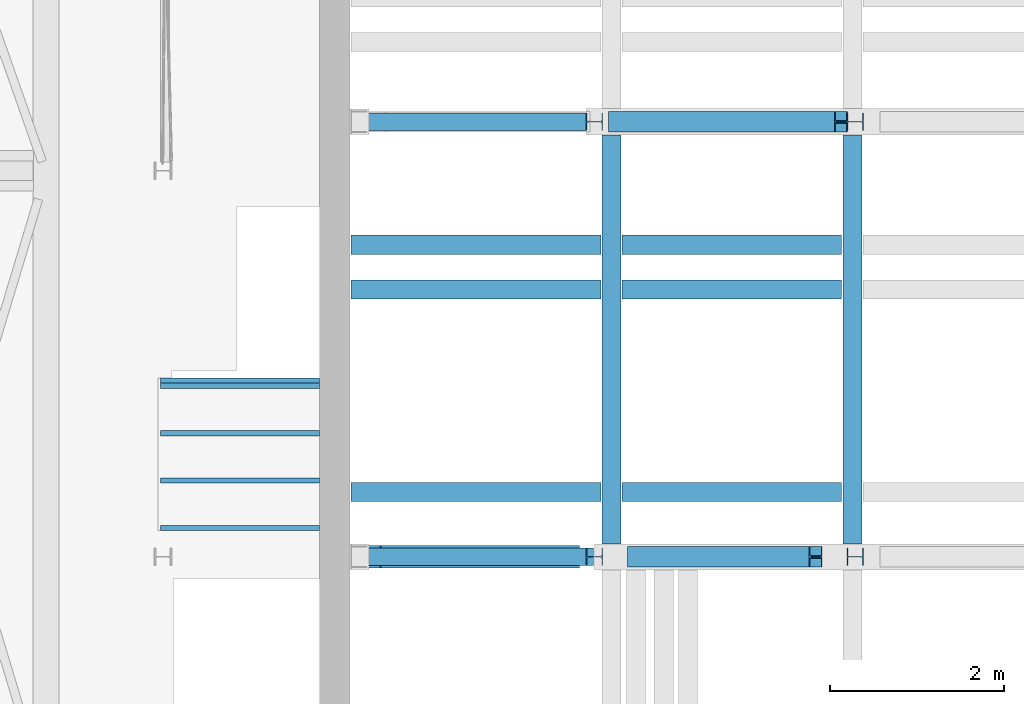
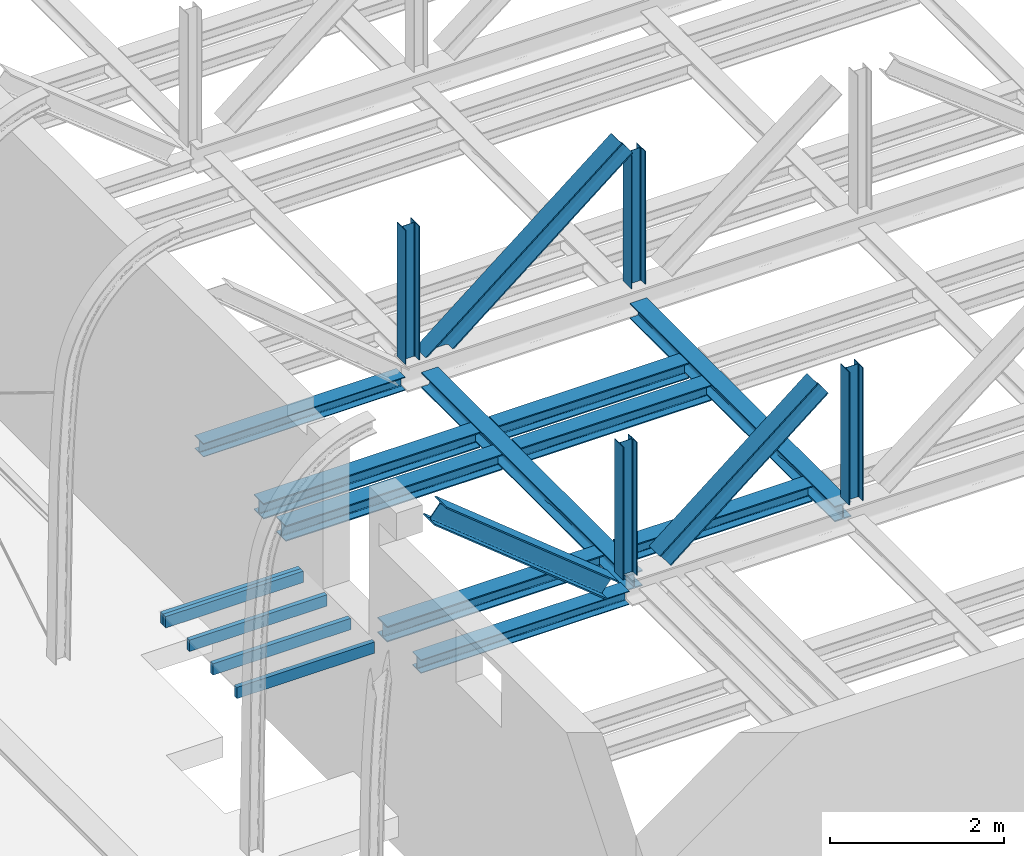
# One storey, part 9 of 29: 22 beams.
"""IFC2X3 building model written with IfcOpenShell, lengths in millimetres."""

from ifc_helpers import new_model, entity, si_unit, converted_unit, derived_unit, direction, frame, frame_2d, origin, place, context, subcontext, project, spatial, polyline, circle_curve, parameter, trimmed, segment, composite_curve, rectangle, i_section, outline, extrude, clip, halfspace, material, type_object, element, save


model = new_model("IFC2X3")

# Units and contexts
model_context = context("Model", 3, precision=0.01, world=origin(), true_north=direction((6.12303176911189e-17, 1.0)))
body_context = subcontext(model_context, "Body", "Model", "MODEL_VIEW")
ifc_project = project(units=[si_unit("LENGTHUNIT", "METRE", prefix="MILLI"), si_unit("AREAUNIT", "SQUARE_METRE", prefix="MILLI"), si_unit("VOLUMEUNIT", "CUBIC_METRE"), converted_unit("PLANEANGLEUNIT", "DEGREE", entity("IfcRatioMeasure", 0.0174532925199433), si_unit("PLANEANGLEUNIT", "RADIAN"), dimensions=[0, 0, 0, 0, 0, 0, 0]), si_unit("MASSUNIT", "GRAM", prefix="KILO"), derived_unit("MASSDENSITYUNIT", [(si_unit("MASSUNIT", "GRAM", prefix="KILO"), 1), (si_unit("LENGTHUNIT", "METRE"), -3)]), derived_unit("MOMENTOFINERTIAUNIT", [(si_unit("LENGTHUNIT", "METRE"), 4)]), si_unit("TIMEUNIT", "SECOND"), si_unit("FREQUENCYUNIT", "HERTZ"), si_unit("THERMODYNAMICTEMPERATUREUNIT", "DEGREE_CELSIUS"), derived_unit("THERMALTRANSMITTANCEUNIT", [(si_unit("MASSUNIT", "GRAM", prefix="KILO"), 1), (si_unit("THERMODYNAMICTEMPERATUREUNIT", "KELVIN"), -1), (si_unit("TIMEUNIT", "SECOND"), -3)]), derived_unit("VOLUMETRICFLOWRATEUNIT", [(si_unit("LENGTHUNIT", "METRE"), 3), (si_unit("TIMEUNIT", "SECOND"), -1)]), si_unit("ELECTRICCURRENTUNIT", "AMPERE"), si_unit("ELECTRICVOLTAGEUNIT", "VOLT"), si_unit("POWERUNIT", "WATT"), si_unit("FORCEUNIT", "NEWTON", prefix="KILO"), si_unit("ILLUMINANCEUNIT", "LUX"), si_unit("LUMINOUSFLUXUNIT", "LUMEN"), si_unit("LUMINOUSINTENSITYUNIT", "CANDELA"), derived_unit("USERDEFINED", [(si_unit("MASSUNIT", "GRAM", prefix="KILO"), -1), (si_unit("LENGTHUNIT", "METRE"), -2), (si_unit("TIMEUNIT", "SECOND"), 3), (si_unit("LUMINOUSFLUXUNIT", "LUMEN"), 1)]), derived_unit("LINEARVELOCITYUNIT", [(si_unit("LENGTHUNIT", "METRE"), 1), (si_unit("TIMEUNIT", "SECOND"), -1)]), si_unit("PRESSUREUNIT", "PASCAL"), derived_unit("USERDEFINED", [(si_unit("LENGTHUNIT", "METRE"), -2), (si_unit("MASSUNIT", "GRAM", prefix="KILO"), 1), (si_unit("TIMEUNIT", "SECOND"), -2)]), derived_unit("LINEARFORCEUNIT", [(si_unit("MASSUNIT", "GRAM", prefix="KILO"), 1), (si_unit("LENGTHUNIT", "METRE"), 1), (si_unit("TIMEUNIT", "SECOND"), -2), (si_unit("LENGTHUNIT", "METRE"), -1)]), derived_unit("PLANARFORCEUNIT", [(si_unit("MASSUNIT", "GRAM", prefix="KILO"), 1), (si_unit("LENGTHUNIT", "METRE"), 1), (si_unit("TIMEUNIT", "SECOND"), -2), (si_unit("LENGTHUNIT", "METRE"), -2)])], contexts=[model_context])

# Site, building, storey
site_placement = place(None, origin())
site = spatial("IfcSite", under=ifc_project, at=site_placement, Name="Theater aan de Parade", CompositionType="ELEMENT")
building_placement = place(site_placement, origin())
building = spatial("IfcBuilding", under=site, at=building_placement, Name="Theater aan de Parade", CompositionType="ELEMENT")
storey_placement = place(building_placement, frame((0.0, 0.0, 20300.0)))
storey = spatial("IfcBuildingStorey", under=building, at=storey_placement, Name="05 vijfde verdieping", CompositionType="ELEMENT", Elevation=20300.0)

# Beams
ifc_material_1 = material(Name="00_PBT_MAT_staal_S355")
beam_type_1 = type_object("IfcBeamType", Name="28_PBT_SF_staal_H-profiel:S355_HE220B", PredefinedType="NOTDEFINED")
beam_1_placement = place(storey_placement, frame((73483.3589914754, 29760.0, 0.0), z_axis=(0.0, 0.0, 1.0), x_axis=(0.0, -1.0, 0.0)))
element("IfcBeam", 1, at=beam_1_placement, inside=storey, type_object=beam_type_1, material=ifc_material_1, Name="28_PBT_SF_staal_H-profiel:S355_HE220B", ObjectType="28_PBT_SF_staal_H-profiel:S355_HE220B", context=body_context, shape_type="SweptSolid", body=[
    extrude(i_section(OverallWidth=220.000000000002, OverallDepth=220.000000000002, WebThickness=9.49999999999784, FlangeThickness=15.9999999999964, FilletRadius=17.9999999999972, at=frame_2d((-4.33431068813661e-12, 0.0), x_axis=(0.0, 1.0))), frame((0.0, 0.0, 2360.0), z_axis=(1.0, 0.0, 0.0), x_axis=(0.0, 0.0, -1.0)), (0.0, 0.0, 1.0), 4700.00000000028),
])
beam_2_placement = place(storey_placement, frame((70715.0, 29760.0, 0.0), z_axis=(0.0, 0.0, 1.0), x_axis=(0.0, -1.0, 0.0)))
element("IfcBeam", 2, at=beam_2_placement, inside=storey, type_object=beam_type_1, material=ifc_material_1, Name="28_PBT_SF_staal_H-profiel:S355_HE220B", ObjectType="28_PBT_SF_staal_H-profiel:S355_HE220B", context=body_context, shape_type="SweptSolid", body=[
    extrude(i_section(OverallWidth=220.000000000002, OverallDepth=220.000000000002, WebThickness=9.49999999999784, FlangeThickness=15.9999999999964, FilletRadius=17.9999999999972, at=frame_2d((-4.33431068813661e-12, -8.66862137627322e-12), x_axis=(0.0, 1.0))), frame((0.0, 0.0, 2360.0), z_axis=(1.0, 0.0, 0.0), x_axis=(0.0, 0.0, -1.0)), (0.0, 0.0, 1.0), 4700.00000000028),
])
beam_3_placement = place(storey_placement, frame((70715.0, 28497.5, 0.0), z_axis=(0.0, 0.0, 1.0), x_axis=(-1.0, 0.0, 0.0)))
element("IfcBeam", 3, at=beam_3_placement, inside=storey, type_object=beam_type_1, material=ifc_material_1, Name="28_PBT_SF_staal_H-profiel:S355_HE220B", ObjectType="28_PBT_SF_staal_H-profiel:S355_HE220B", context=body_context, shape_type="SweptSolid", body=[
    extrude(outline(composite_curve([segment(polyline([(94.0, -110.0), (110.0, -110.0)]), True, "CONTINUOUS"), segment(polyline([(110.0, -110.0), (110.0, 110.0)]), True, "CONTINUOUS"), segment(polyline([(110.0, 110.0), (94.0, 110.0)]), True, "CONTINUOUS"), segment(polyline([(94.0, 110.0), (94.0, 22.7500000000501)]), True, "CONTINUOUS"), segment(trimmed(circle_curve(frame_2d((76.0, 22.7500000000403), x_axis=(1.0, 0.0)), 18.0000000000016), [parameter(270.0)], [parameter(0.0)], True, "PARAMETER"), False, "CONTINUOUS"), segment(polyline([(76.0, 4.75000000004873), (-76.0, 4.74999999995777)]), True, "CONTINUOUS"), segment(trimmed(circle_curve(frame_2d((-76.0, 22.749999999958), x_axis=(0.0, -1.0)), 18.0000000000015), [parameter(270.0)], [parameter(0.0)], True, "PARAMETER"), False, "CONTINUOUS"), segment(polyline([(-94.0, 22.7499999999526), (-94.0, 110.0)]), True, "CONTINUOUS"), segment(polyline([(-94.0, 110.0), (-110.0, 110.0)]), True, "CONTINUOUS"), segment(polyline([(-110.0, 110.0), (-110.0, -110.0)]), True, "CONTINUOUS"), segment(polyline([(-110.0, -110.0), (-94.0, -110.0)]), True, "CONTINUOUS"), segment(polyline([(-94.0, -110.0), (-94.0, -22.7500000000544)]), True, "CONTINUOUS"), segment(trimmed(circle_curve(frame_2d((-76.0, -22.7500000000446), x_axis=(-1.0, 0.0)), 17.9999999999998), [parameter(270.0)], [parameter(0.0)], True, "PARAMETER"), False, "CONTINUOUS"), segment(polyline([(-76.0, -4.75000000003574), (76.0, -4.7499999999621)]), True, "CONTINUOUS"), segment(trimmed(circle_curve(frame_2d((76.0, -22.7499999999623), x_axis=(0.0, 1.0)), 18.0000000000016), [parameter(270.0)], [parameter(0.0)], True, "PARAMETER"), False, "CONTINUOUS"), segment(polyline([(94.0, -22.7499999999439), (94.0, -110.0)]), True, "CONTINUOUS")], self_intersect=False)), frame((122.699999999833, 0.0, 2360.0), z_axis=(1.0, 0.0, 0.0), x_axis=(0.0, 0.0, -1.0)), (0.0, 0.0, 1.0), 2873.34389903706),
])
beam_4_placement = place(storey_placement, frame((73483.3589914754, 28497.5, 0.0), z_axis=(0.0, 0.0, 1.0), x_axis=(-1.0, 0.0, 0.0)))
element("IfcBeam", 4, at=beam_4_placement, inside=storey, type_object=beam_type_1, material=ifc_material_1, Name="28_PBT_SF_staal_H-profiel:S355_HE220B", ObjectType="28_PBT_SF_staal_H-profiel:S355_HE220B", context=body_context, shape_type="SweptSolid", body=[
    extrude(outline(composite_curve([segment(polyline([(94.0, -110.0), (110.0, -110.0)]), True, "CONTINUOUS"), segment(polyline([(110.0, -110.0), (110.0, 110.0)]), True, "CONTINUOUS"), segment(polyline([(110.0, 110.0), (94.0, 110.0)]), True, "CONTINUOUS"), segment(polyline([(94.0, 110.0), (94.0, 22.7500000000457)]), True, "CONTINUOUS"), segment(trimmed(circle_curve(frame_2d((76.0, 22.750000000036), x_axis=(1.0, 0.0)), 18.0000000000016), [parameter(270.0)], [parameter(0.0)], True, "PARAMETER"), False, "CONTINUOUS"), segment(polyline([(76.0, 4.7500000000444), (-76.0, 4.74999999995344)]), True, "CONTINUOUS"), segment(trimmed(circle_curve(frame_2d((-76.0, 22.7499999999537), x_axis=(0.0, -1.0)), 18.0000000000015), [parameter(270.0)], [parameter(0.0)], True, "PARAMETER"), False, "CONTINUOUS"), segment(polyline([(-94.0, 22.7499999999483), (-94.0, 110.0)]), True, "CONTINUOUS"), segment(polyline([(-94.0, 110.0), (-110.0, 110.0)]), True, "CONTINUOUS"), segment(polyline([(-110.0, 110.0), (-110.0, -110.0)]), True, "CONTINUOUS"), segment(polyline([(-110.0, -110.0), (-94.0, -110.0)]), True, "CONTINUOUS"), segment(polyline([(-94.0, -110.0), (-94.0, -22.7500000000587)]), True, "CONTINUOUS"), segment(trimmed(circle_curve(frame_2d((-76.0, -22.750000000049), x_axis=(-1.0, 0.0)), 17.9999999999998), [parameter(270.0)], [parameter(0.0)], True, "PARAMETER"), False, "CONTINUOUS"), segment(polyline([(-76.0, -4.75000000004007), (76.0, -4.74999999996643)]), True, "CONTINUOUS"), segment(trimmed(circle_curve(frame_2d((76.0, -22.7499999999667), x_axis=(0.0, 1.0)), 18.0000000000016), [parameter(270.0)], [parameter(0.0)], True, "PARAMETER"), False, "CONTINUOUS"), segment(polyline([(94.0, -22.7499999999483), (94.0, -110.0)]), True, "CONTINUOUS")], self_intersect=False)), frame((122.700000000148, 0.0, 2360.0), z_axis=(1.0, 0.0, 0.0), x_axis=(0.0, 0.0, -1.0)), (0.0, 0.0, 1.0), 2522.95899147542),
])
beam_5_placement = place(storey_placement, frame((70715.0, 27983.4998, 0.0), z_axis=(0.0, 0.0, 1.0), x_axis=(-1.0, 0.0, 0.0)))
element("IfcBeam", 5, at=beam_5_placement, inside=storey, type_object=beam_type_1, material=ifc_material_1, Name="28_PBT_SF_staal_H-profiel:S355_HE220B", ObjectType="28_PBT_SF_staal_H-profiel:S355_HE220B", context=body_context, shape_type="SweptSolid", body=[
    extrude(outline(composite_curve([segment(polyline([(94.0, -110.0), (110.0, -110.0)]), True, "CONTINUOUS"), segment(polyline([(110.0, -110.0), (110.0, 110.0)]), True, "CONTINUOUS"), segment(polyline([(110.0, 110.0), (94.0, 110.0)]), True, "CONTINUOUS"), segment(polyline([(94.0, 110.0), (94.0, 22.7500000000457)]), True, "CONTINUOUS"), segment(trimmed(circle_curve(frame_2d((76.0, 22.750000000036), x_axis=(1.0, 0.0)), 18.0000000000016), [parameter(270.0)], [parameter(0.0)], True, "PARAMETER"), False, "CONTINUOUS"), segment(polyline([(76.0, 4.7500000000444), (-76.0, 4.74999999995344)]), True, "CONTINUOUS"), segment(trimmed(circle_curve(frame_2d((-76.0, 22.7499999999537), x_axis=(0.0, -1.0)), 18.0000000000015), [parameter(270.0)], [parameter(0.0)], True, "PARAMETER"), False, "CONTINUOUS"), segment(polyline([(-94.0, 22.7499999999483), (-94.0, 110.0)]), True, "CONTINUOUS"), segment(polyline([(-94.0, 110.0), (-110.0, 110.0)]), True, "CONTINUOUS"), segment(polyline([(-110.0, 110.0), (-110.0, -110.0)]), True, "CONTINUOUS"), segment(polyline([(-110.0, -110.0), (-94.0, -110.0)]), True, "CONTINUOUS"), segment(polyline([(-94.0, -110.0), (-94.0, -22.7500000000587)]), True, "CONTINUOUS"), segment(trimmed(circle_curve(frame_2d((-76.0, -22.750000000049), x_axis=(-1.0, 0.0)), 17.9999999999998), [parameter(270.0)], [parameter(0.0)], True, "PARAMETER"), False, "CONTINUOUS"), segment(polyline([(-76.0, -4.75000000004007), (76.0, -4.74999999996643)]), True, "CONTINUOUS"), segment(trimmed(circle_curve(frame_2d((76.0, -22.7499999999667), x_axis=(0.0, 1.0)), 18.0000000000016), [parameter(270.0)], [parameter(0.0)], True, "PARAMETER"), False, "CONTINUOUS"), segment(polyline([(94.0, -22.7499999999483), (94.0, -110.0)]), True, "CONTINUOUS")], self_intersect=False)), frame((122.69999999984, 0.0, 2360.0), z_axis=(1.0, 0.0, 0.0), x_axis=(0.0, 0.0, -1.0)), (0.0, 0.0, 1.0), 2873.34389903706),
])
beam_6_placement = place(storey_placement, frame((73483.3589914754, 27983.4998, 0.0), z_axis=(0.0, 0.0, 1.0), x_axis=(-1.0, 0.0, 0.0)))
element("IfcBeam", 6, at=beam_6_placement, inside=storey, type_object=beam_type_1, material=ifc_material_1, Name="28_PBT_SF_staal_H-profiel:S355_HE220B", ObjectType="28_PBT_SF_staal_H-profiel:S355_HE220B", context=body_context, shape_type="SweptSolid", body=[
    extrude(outline(composite_curve([segment(polyline([(94.0, -110.0), (110.0, -110.0)]), True, "CONTINUOUS"), segment(polyline([(110.0, -110.0), (110.0, 110.0)]), True, "CONTINUOUS"), segment(polyline([(110.0, 110.0), (94.0, 110.0)]), True, "CONTINUOUS"), segment(polyline([(94.0, 110.0), (94.0, 22.7500000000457)]), True, "CONTINUOUS"), segment(trimmed(circle_curve(frame_2d((76.0, 22.750000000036), x_axis=(1.0, 0.0)), 18.0000000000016), [parameter(270.0)], [parameter(0.0)], True, "PARAMETER"), False, "CONTINUOUS"), segment(polyline([(76.0, 4.7500000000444), (-76.0, 4.74999999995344)]), True, "CONTINUOUS"), segment(trimmed(circle_curve(frame_2d((-76.0, 22.7499999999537), x_axis=(0.0, -1.0)), 18.0000000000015), [parameter(270.0)], [parameter(0.0)], True, "PARAMETER"), False, "CONTINUOUS"), segment(polyline([(-94.0, 22.7499999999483), (-94.0, 110.0)]), True, "CONTINUOUS"), segment(polyline([(-94.0, 110.0), (-110.0, 110.0)]), True, "CONTINUOUS"), segment(polyline([(-110.0, 110.0), (-110.0, -110.0)]), True, "CONTINUOUS"), segment(polyline([(-110.0, -110.0), (-94.0, -110.0)]), True, "CONTINUOUS"), segment(polyline([(-94.0, -110.0), (-94.0, -22.7500000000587)]), True, "CONTINUOUS"), segment(trimmed(circle_curve(frame_2d((-76.0, -22.750000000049), x_axis=(-1.0, 0.0)), 17.9999999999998), [parameter(270.0)], [parameter(0.0)], True, "PARAMETER"), False, "CONTINUOUS"), segment(polyline([(-76.0, -4.75000000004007), (76.0, -4.74999999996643)]), True, "CONTINUOUS"), segment(trimmed(circle_curve(frame_2d((76.0, -22.7499999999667), x_axis=(0.0, 1.0)), 18.0000000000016), [parameter(270.0)], [parameter(0.0)], True, "PARAMETER"), False, "CONTINUOUS"), segment(polyline([(94.0, -22.7499999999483), (94.0, -110.0)]), True, "CONTINUOUS")], self_intersect=False)), frame((122.700000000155, 0.0, 2360.0), z_axis=(1.0, 0.0, 0.0), x_axis=(0.0, 0.0, -1.0)), (0.0, 0.0, 1.0), 2522.95899147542),
])
beam_7_placement = place(storey_placement, frame((70715.0, 25654.5, 0.0), z_axis=(0.0, 0.0, 1.0), x_axis=(-1.0, 0.0, 0.0)))
element("IfcBeam", 7, at=beam_7_placement, inside=storey, type_object=beam_type_1, material=ifc_material_1, Name="28_PBT_SF_staal_H-profiel:S355_HE220B", ObjectType="28_PBT_SF_staal_H-profiel:S355_HE220B", context=body_context, shape_type="SweptSolid", body=[
    extrude(outline(composite_curve([segment(polyline([(94.0, -110.0), (110.0, -110.0)]), True, "CONTINUOUS"), segment(polyline([(110.0, -110.0), (110.0, 110.0)]), True, "CONTINUOUS"), segment(polyline([(110.0, 110.0), (94.0, 110.0)]), True, "CONTINUOUS"), segment(polyline([(94.0, 110.0), (94.0, 22.7500000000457)]), True, "CONTINUOUS"), segment(trimmed(circle_curve(frame_2d((76.0, 22.750000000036), x_axis=(1.0, 0.0)), 18.0000000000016), [parameter(270.0)], [parameter(0.0)], True, "PARAMETER"), False, "CONTINUOUS"), segment(polyline([(76.0, 4.7500000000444), (-76.0, 4.74999999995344)]), True, "CONTINUOUS"), segment(trimmed(circle_curve(frame_2d((-76.0, 22.7499999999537), x_axis=(0.0, -1.0)), 18.0000000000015), [parameter(270.0)], [parameter(0.0)], True, "PARAMETER"), False, "CONTINUOUS"), segment(polyline([(-94.0, 22.7499999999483), (-94.0, 110.0)]), True, "CONTINUOUS"), segment(polyline([(-94.0, 110.0), (-110.0, 110.0)]), True, "CONTINUOUS"), segment(polyline([(-110.0, 110.0), (-110.0, -110.0)]), True, "CONTINUOUS"), segment(polyline([(-110.0, -110.0), (-94.0, -110.0)]), True, "CONTINUOUS"), segment(polyline([(-94.0, -110.0), (-94.0, -22.7500000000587)]), True, "CONTINUOUS"), segment(trimmed(circle_curve(frame_2d((-76.0, -22.750000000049), x_axis=(-1.0, 0.0)), 17.9999999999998), [parameter(270.0)], [parameter(0.0)], True, "PARAMETER"), False, "CONTINUOUS"), segment(polyline([(-76.0, -4.75000000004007), (76.0, -4.74999999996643)]), True, "CONTINUOUS"), segment(trimmed(circle_curve(frame_2d((76.0, -22.7499999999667), x_axis=(0.0, 1.0)), 18.0000000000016), [parameter(270.0)], [parameter(0.0)], True, "PARAMETER"), False, "CONTINUOUS"), segment(polyline([(94.0, -22.7499999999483), (94.0, -110.0)]), True, "CONTINUOUS")], self_intersect=False)), frame((122.699999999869, 0.0, 2360.0), z_axis=(1.0, 0.0, 0.0), x_axis=(0.0, 0.0, -1.0)), (0.0, 0.0, 1.0), 2873.34389903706),
])
beam_8_placement = place(storey_placement, frame((73483.3589914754, 25654.5, 0.0), z_axis=(0.0, 0.0, 1.0), x_axis=(-1.0, 0.0, 0.0)))
element("IfcBeam", 8, at=beam_8_placement, inside=storey, type_object=beam_type_1, material=ifc_material_1, Name="28_PBT_SF_staal_H-profiel:S355_HE220B", ObjectType="28_PBT_SF_staal_H-profiel:S355_HE220B", context=body_context, shape_type="SweptSolid", body=[
    extrude(outline(composite_curve([segment(polyline([(94.0, -110.0), (110.0, -110.0)]), True, "CONTINUOUS"), segment(polyline([(110.0, -110.0), (110.0, 110.0)]), True, "CONTINUOUS"), segment(polyline([(110.0, 110.0), (94.0, 110.0)]), True, "CONTINUOUS"), segment(polyline([(94.0, 110.0), (94.0, 22.7500000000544)]), True, "CONTINUOUS"), segment(trimmed(circle_curve(frame_2d((76.0, 22.7500000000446), x_axis=(1.0, 0.0)), 18.0000000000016), [parameter(270.0)], [parameter(0.0)], True, "PARAMETER"), False, "CONTINUOUS"), segment(polyline([(76.0, 4.75000000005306), (-76.0, 4.7499999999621)]), True, "CONTINUOUS"), segment(trimmed(circle_curve(frame_2d((-76.0, 22.7499999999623), x_axis=(0.0, -1.0)), 18.0000000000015), [parameter(270.0)], [parameter(0.0)], True, "PARAMETER"), False, "CONTINUOUS"), segment(polyline([(-94.0, 22.7499999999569), (-94.0, 110.0)]), True, "CONTINUOUS"), segment(polyline([(-94.0, 110.0), (-110.0, 110.0)]), True, "CONTINUOUS"), segment(polyline([(-110.0, 110.0), (-110.0, -110.0)]), True, "CONTINUOUS"), segment(polyline([(-110.0, -110.0), (-94.0, -110.0)]), True, "CONTINUOUS"), segment(polyline([(-94.0, -110.0), (-94.0, -22.7500000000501)]), True, "CONTINUOUS"), segment(trimmed(circle_curve(frame_2d((-76.0, -22.7500000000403), x_axis=(-1.0, 0.0)), 17.9999999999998), [parameter(270.0)], [parameter(0.0)], True, "PARAMETER"), False, "CONTINUOUS"), segment(polyline([(-76.0, -4.75000000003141), (76.0, -4.74999999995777)]), True, "CONTINUOUS"), segment(trimmed(circle_curve(frame_2d((76.0, -22.749999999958), x_axis=(0.0, 1.0)), 18.0000000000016), [parameter(270.0)], [parameter(0.0)], True, "PARAMETER"), False, "CONTINUOUS"), segment(polyline([(94.0, -22.7499999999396), (94.0, -110.0)]), True, "CONTINUOUS")], self_intersect=False)), frame((122.70000000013, 0.0, 2360.0), z_axis=(1.0, 0.0, 0.0), x_axis=(0.0, 0.0, -1.0)), (0.0, 0.0, 1.0), 2522.95899147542),
])
beam_type_2 = type_object("IfcBeamType", Name="28_PBT_SF_staal_H-profiel:S355_HE200A", PredefinedType="NOTDEFINED")
beam_9_placement = place(storey_placement, frame((67742.4274620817, 29910.0, 2345.0)))
element("IfcBeam", 9, at=beam_9_placement, inside=storey, type_object=beam_type_2, material=ifc_material_1, Name="28_PBT_SF_staal_H-profiel:S355_HE200A", ObjectType="28_PBT_SF_staal_H-profiel:S355_HE200A", context=body_context, shape_type="SweptSolid", body=[
    extrude(i_section(OverallWidth=200.000000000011, OverallDepth=190.0, WebThickness=6.49999999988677, FlangeThickness=9.99999999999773, FilletRadius=18.0000000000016, at=frame_2d((-4.33431068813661e-12, -2.16715534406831e-12), x_axis=(0.0, 1.0))), frame((0.0, 0.0, 0.0), z_axis=(1.0, 0.0, 0.0), x_axis=(0.0, 0.0, -1.0)), (0.0, 0.0, 1.0), 2678.70159045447),
])
beam_10_placement = place(storey_placement, frame((70517.4274620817, 29910.0, 2345.0), z_axis=(1.0, 0.0, 0.0), x_axis=(0.0, 0.0, 1.0)))
element("IfcBeam", 10, at=beam_10_placement, inside=storey, type_object=beam_type_2, material=ifc_material_1, Name="28_PBT_SF_staal_H-profiel:S355_HE200A", ObjectType="28_PBT_SF_staal_H-profiel:S355_HE200A", context=body_context, shape_type="SweptSolid", body=[
    extrude(i_section(OverallWidth=199.999999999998, OverallDepth=190.0, WebThickness=6.50000000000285, FlangeThickness=9.99999999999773, FilletRadius=17.9999999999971, at=frame_2d((-4.33431068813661e-12, 2.16715534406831e-12), x_axis=(0.0, 1.0))), frame((265.0, 0.0, 0.0), z_axis=(1.0, 0.0, 0.0), x_axis=(0.0, 0.0, -1.0)), (0.0, 0.0, 1.0), 1877.3),
])
beam_11_placement = place(storey_placement, frame((73514.8549241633, 29910.0, 2430.0), z_axis=(1.0, 0.0, 0.0), x_axis=(0.0, 0.0, 1.0)))
element("IfcBeam", 11, at=beam_11_placement, inside=storey, type_object=beam_type_2, material=ifc_material_1, Name="28_PBT_SF_staal_H-profiel:S355_HE200A", ObjectType="28_PBT_SF_staal_H-profiel:S355_HE200A", context=body_context, shape_type="SweptSolid", body=[
    extrude(i_section(OverallWidth=199.999999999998, OverallDepth=190.0, WebThickness=6.50000000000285, FlangeThickness=9.99999999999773, FilletRadius=17.9999999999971, at=frame_2d((1.29958266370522e-11, 2.16715534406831e-12), x_axis=(0.0, 1.0))), frame((192.7, 0.0, 0.0), z_axis=(1.0, 0.0, 0.0), x_axis=(0.0, 0.0, -1.0)), (0.0, 0.0, 1.0), 1864.6),
])
beam_12_placement = place(storey_placement, frame((73514.8549241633, 24910.0, 2429.0), z_axis=(1.0, 0.0, 0.0), x_axis=(0.0, 0.0, 1.0)))
element("IfcBeam", 12, at=beam_12_placement, inside=storey, type_object=beam_type_2, material=ifc_material_1, Name="28_PBT_SF_staal_H-profiel:S355_HE200A", ObjectType="28_PBT_SF_staal_H-profiel:S355_HE200A", context=body_context, shape_type="SweptSolid", body=[
    extrude(outline(composite_curve([segment(polyline([(85.0, -100.0), (95.0, -100.0)]), True, "CONTINUOUS"), segment(polyline([(95.0, -100.0), (95.0, 100.0)]), True, "CONTINUOUS"), segment(polyline([(95.0, 100.0), (85.0, 100.0)]), True, "CONTINUOUS"), segment(polyline([(85.0, 100.0), (85.0, 21.2500000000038)]), True, "CONTINUOUS"), segment(trimmed(circle_curve(frame_2d((67.0, 21.2499999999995), x_axis=(1.0, 0.0)), 17.9999999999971), [parameter(269.999999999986)], [parameter(0.0)], True, "PARAMETER"), False, "CONTINUOUS"), segment(polyline([(67.0, 3.25000000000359), (-67.0, 3.25000000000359)]), True, "CONTINUOUS"), segment(trimmed(circle_curve(frame_2d((-67.0, 21.2499999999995), x_axis=(0.0, -1.0)), 17.9999999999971), [parameter(269.999999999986)], [parameter(0.0)], True, "PARAMETER"), False, "CONTINUOUS"), segment(polyline([(-85.0, 21.2500000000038), (-85.0, 100.0)]), True, "CONTINUOUS"), segment(polyline([(-85.0, 100.0), (-95.0, 100.0)]), True, "CONTINUOUS"), segment(polyline([(-95.0, 100.0), (-95.0, -100.0)]), True, "CONTINUOUS"), segment(polyline([(-95.0, -100.0), (-85.0, -100.0)]), True, "CONTINUOUS"), segment(polyline([(-85.0, -100.0), (-85.0, -21.2499999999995)]), True, "CONTINUOUS"), segment(trimmed(circle_curve(frame_2d((-67.0, -21.2499999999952), x_axis=(-1.0, 0.0)), 17.9999999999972), [parameter(269.999999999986)], [parameter(0.0)], True, "PARAMETER"), False, "CONTINUOUS"), segment(polyline([(-67.0, -3.24999999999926), (67.0, -3.24999999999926)]), True, "CONTINUOUS"), segment(trimmed(circle_curve(frame_2d((67.0, -21.2499999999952), x_axis=(0.0, 1.0)), 17.9999999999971), [parameter(269.999999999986)], [parameter(0.0)], True, "PARAMETER"), False, "CONTINUOUS"), segment(polyline([(85.0, -21.2499999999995), (85.0, -100.0)]), True, "CONTINUOUS")], self_intersect=False)), frame((192.700000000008, 0.0, 0.0), z_axis=(1.0, 0.0, 0.0), x_axis=(0.0, 0.0, -1.0)), (0.0, 0.0, 1.0), 1864.59999999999),
])
beam_13_placement = place(storey_placement, frame((67742.4274620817, 24910.0, 2344.0)))
element("IfcBeam", 13, at=beam_13_placement, inside=storey, type_object=beam_type_2, material=ifc_material_1, Name="28_PBT_SF_staal_H-profiel:S355_HE200A", ObjectType="28_PBT_SF_staal_H-profiel:S355_HE200A", context=body_context, shape_type="SweptSolid", body=[
    extrude(outline(composite_curve([segment(polyline([(85.0, -100.0), (95.0, -100.0)]), True, "CONTINUOUS"), segment(polyline([(95.0, -100.0), (95.0, 100.0)]), True, "CONTINUOUS"), segment(polyline([(95.0, 100.0), (85.0, 100.0)]), True, "CONTINUOUS"), segment(polyline([(85.0, 100.0), (85.0, 21.2499999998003)]), True, "CONTINUOUS"), segment(trimmed(circle_curve(frame_2d((67.0, 21.249999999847), x_axis=(1.0, 0.0)), 18.0000000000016), [parameter(270.0)], [parameter(0.0)], True, "PARAMETER"), False, "CONTINUOUS"), segment(polyline([(67.0, 3.2499999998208), (-67.0, 3.25000000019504)]), True, "CONTINUOUS"), segment(trimmed(circle_curve(frame_2d((-67.0, 21.2500000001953), x_axis=(0.0, -1.0)), 18.0000000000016), [parameter(270.0)], [parameter(0.0)], True, "PARAMETER"), False, "CONTINUOUS"), segment(polyline([(-85.0, 21.2500000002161), (-85.0, 100.0)]), True, "CONTINUOUS"), segment(polyline([(-85.0, 100.0), (-95.0, 100.0)]), True, "CONTINUOUS"), segment(polyline([(-95.0, 100.0), (-95.0, -100.0)]), True, "CONTINUOUS"), segment(polyline([(-95.0, -100.0), (-85.0, -100.0)]), True, "CONTINUOUS"), segment(polyline([(-85.0, -100.0), (-85.0, -21.2499999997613)]), True, "CONTINUOUS"), segment(trimmed(circle_curve(frame_2d((-67.0, -21.249999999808), x_axis=(-1.0, 0.0)), 17.9999999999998), [parameter(270.0)], [parameter(0.0)], True, "PARAMETER"), False, "CONTINUOUS"), segment(polyline([(-67.0, -3.2499999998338), (67.0, -3.25000000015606)]), True, "CONTINUOUS"), segment(trimmed(circle_curve(frame_2d((67.0, -21.2500000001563), x_axis=(0.0, 1.0)), 18.0000000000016), [parameter(270.0)], [parameter(0.0)], True, "PARAMETER"), False, "CONTINUOUS"), segment(polyline([(85.0, -21.2500000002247), (85.0, -100.0)]), True, "CONTINUOUS")], self_intersect=False)), frame((0.0, 0.0, 0.0), z_axis=(1.0, 0.0, 0.0), x_axis=(0.0, 0.0, -1.0)), (0.0, 0.0, 1.0), 2762.2999993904),
])
beam_14_placement = place(storey_placement, frame((70517.4274620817, 24910.0, 2344.0), z_axis=(1.0, 0.0, 0.0), x_axis=(0.0, 0.0, 1.0)))
element("IfcBeam", 14, at=beam_14_placement, inside=storey, type_object=beam_type_2, material=ifc_material_1, Name="28_PBT_SF_staal_H-profiel:S355_HE200A", ObjectType="28_PBT_SF_staal_H-profiel:S355_HE200A", context=body_context, shape_type="SweptSolid", body=[
    extrude(outline(composite_curve([segment(polyline([(85.0, -100.0), (95.0, -100.0)]), True, "CONTINUOUS"), segment(polyline([(95.0, -100.0), (95.0, 100.0)]), True, "CONTINUOUS"), segment(polyline([(95.0, 100.0), (85.0, 100.0)]), True, "CONTINUOUS"), segment(polyline([(85.0, 100.0), (85.0, 21.2500000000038)]), True, "CONTINUOUS"), segment(trimmed(circle_curve(frame_2d((67.0, 21.2499999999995), x_axis=(1.0, 0.0)), 17.9999999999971), [parameter(269.999999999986)], [parameter(0.0)], True, "PARAMETER"), False, "CONTINUOUS"), segment(polyline([(67.0, 3.25000000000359), (-67.0, 3.25000000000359)]), True, "CONTINUOUS"), segment(trimmed(circle_curve(frame_2d((-67.0, 21.2499999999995), x_axis=(0.0, -1.0)), 17.9999999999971), [parameter(269.999999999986)], [parameter(0.0)], True, "PARAMETER"), False, "CONTINUOUS"), segment(polyline([(-85.0, 21.2500000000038), (-85.0, 100.0)]), True, "CONTINUOUS"), segment(polyline([(-85.0, 100.0), (-95.0, 100.0)]), True, "CONTINUOUS"), segment(polyline([(-95.0, 100.0), (-95.0, -100.0)]), True, "CONTINUOUS"), segment(polyline([(-95.0, -100.0), (-85.0, -100.0)]), True, "CONTINUOUS"), segment(polyline([(-85.0, -100.0), (-85.0, -21.2499999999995)]), True, "CONTINUOUS"), segment(trimmed(circle_curve(frame_2d((-67.0, -21.2499999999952), x_axis=(-1.0, 0.0)), 17.9999999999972), [parameter(269.999999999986)], [parameter(0.0)], True, "PARAMETER"), False, "CONTINUOUS"), segment(polyline([(-67.0, -3.24999999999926), (67.0, -3.24999999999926)]), True, "CONTINUOUS"), segment(trimmed(circle_curve(frame_2d((67.0, -21.2499999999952), x_axis=(0.0, 1.0)), 17.9999999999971), [parameter(269.999999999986)], [parameter(0.0)], True, "PARAMETER"), False, "CONTINUOUS"), segment(polyline([(85.0, -21.2499999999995), (85.0, -100.0)]), True, "CONTINUOUS")], self_intersect=False)), frame((277.699999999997, 0.0, 0.0), z_axis=(1.0, 0.0, 0.0), x_axis=(0.0, 0.0, -1.0)), (0.0, 0.0, 1.0), 1864.6),
])
beam_type_3 = type_object("IfcBeamType", Name="28_PBT_SF_staal_H-profiel:S355_HE260B", PredefinedType="NOTDEFINED")
beam_15_placement = place(storey_placement, frame((67520.0, 24910.0, 4764.0), z_axis=(0.628180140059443, 0.0, 0.778067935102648), x_axis=(0.778067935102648, 0.0, -0.628180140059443)))
element("IfcBeam", 15, at=beam_15_placement, inside=storey, type_object=beam_type_3, material=ifc_material_1, Name="28_PBT_SF_staal_H-profiel:S355_HE260B", ObjectType="28_PBT_SF_staal_H-profiel:S355_HE260B", context=body_context, shape_type="SweptSolid", body=[
    extrude(i_section(OverallWidth=260.000000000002, OverallDepth=260.000000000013, WebThickness=10.0000000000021, FlangeThickness=17.5000000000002, FilletRadius=23.9999999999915, at=frame_2d((7.7733375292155e-12, -6.49436060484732e-12), x_axis=(0.0, 1.0))), frame((595.572345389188, 0.0, 0.0), z_axis=(1.0, 0.0, 0.0), x_axis=(0.0, 0.0, -1.0)), (0.0, 0.0, 1.0), 2931.87645368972),
])
beam_type_4 = type_object("IfcBeamType", Name="28_PBT_SF_staal_H-profiel:S355_HE240B", PredefinedType="NOTDEFINED")
beam_16_placement = place(storey_placement, frame((70517.4274620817, 29910.0, 2345.0), z_axis=(-0.627787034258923, 0.0, 0.778385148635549), x_axis=(0.778385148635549, 0.0, 0.627787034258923)))
element("IfcBeam", 16, at=beam_16_placement, inside=storey, type_object=beam_type_4, material=ifc_material_1, Name="28_PBT_SF_staal_H-profiel:S355_HE240B", ObjectType="28_PBT_SF_staal_H-profiel:S355_HE240B", context=body_context, shape_type="Clipping", body=[
    clip(extrude(i_section(OverallWidth=239.999999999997, OverallDepth=239.999999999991, WebThickness=10.0000000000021, FlangeThickness=16.9999999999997, FilletRadius=21.0000000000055, at=frame_2d((7.7733375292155e-12, 2.16715534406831e-12), x_axis=(0.0, 1.0))), frame((305.18913534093, 0.0, 0.0), z_axis=(1.0, 0.0, 0.0), x_axis=(0.0, 0.0, -1.0)), (0.0, 0.0, 1.0), 3336.54864246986), halfspace(frame((88.4010789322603, -170.0, 294.844973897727), z_axis=(-0.627787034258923, 0.0, -0.778385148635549), x_axis=(0.778385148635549, 0.0, -0.627787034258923)), False)),
])
beam_17_placement = place(storey_placement, frame((70517.4274620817, 24910.0, 2344.0), z_axis=(-0.628180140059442, 0.0, 0.778067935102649), x_axis=(0.778067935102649, 0.0, 0.628180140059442)))
element("IfcBeam", 17, at=beam_17_placement, inside=storey, type_object=beam_type_4, material=ifc_material_1, Name="28_PBT_SF_staal_H-profiel:S355_HE240B", ObjectType="28_PBT_SF_staal_H-profiel:S355_HE240B", context=body_context, shape_type="SweptSolid", body=[
    extrude(outline(composite_curve([segment(polyline([(103.0, -120.0), (120.0, -120.0)]), True, "CONTINUOUS"), segment(polyline([(120.0, -120.0), (120.0, 120.0)]), True, "CONTINUOUS"), segment(polyline([(120.0, 120.0), (103.0, 120.0)]), True, "CONTINUOUS"), segment(polyline([(103.0, 120.0), (103.0, 26.0)]), True, "CONTINUOUS"), segment(trimmed(circle_curve(frame_2d((82.0, 26.0), x_axis=(1.0, 0.0)), 21.0000000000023), [parameter(270.000000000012)], [parameter(0.0)], True, "PARAMETER"), False, "CONTINUOUS"), segment(polyline([(82.0, 5.0), (-82.0, 5.0)]), True, "CONTINUOUS"), segment(trimmed(circle_curve(frame_2d((-82.0, 26.0), x_axis=(0.0, -1.0)), 21.0000000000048), [parameter(270.000000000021)], [parameter(0.0)], True, "PARAMETER"), False, "CONTINUOUS"), segment(polyline([(-103.0, 26.0), (-103.0, 120.0)]), True, "CONTINUOUS"), segment(polyline([(-103.0, 120.0), (-120.0, 120.0)]), True, "CONTINUOUS"), segment(polyline([(-120.0, 120.0), (-120.0, -120.0)]), True, "CONTINUOUS"), segment(polyline([(-120.0, -120.0), (-103.0, -120.0)]), True, "CONTINUOUS"), segment(polyline([(-103.0, -120.0), (-103.0, -26.0)]), True, "CONTINUOUS"), segment(trimmed(circle_curve(frame_2d((-82.0, -26.0), x_axis=(-1.0, 0.0)), 21.0000000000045), [parameter(270.000000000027)], [parameter(0.0)], True, "PARAMETER"), False, "CONTINUOUS"), segment(polyline([(-82.0, -5.0), (82.0, -5.0)]), True, "CONTINUOUS"), segment(trimmed(circle_curve(frame_2d((82.0, -26.0), x_axis=(0.0, 1.0)), 21.0000000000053), [parameter(270.000000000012)], [parameter(0.0)], True, "PARAMETER"), False, "CONTINUOUS"), segment(polyline([(103.0, -26.0), (103.0, -120.0)]), True, "CONTINUOUS")], self_intersect=False)), frame((583.186281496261, 0.0, 0.0), z_axis=(1.0, 0.0, 0.0), x_axis=(0.0, 0.0, -1.0)), (0.0, 0.0, 1.0), 2686.02557199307),
])
ifc_material_2 = material(Name="00_PBT_MAT_hout")
beam_type_5 = type_object("IfcBeamType", Name="28_PBT_SF_rechthoekig hout:59x159", PredefinedType="NOTDEFINED")
for number, where, name in (
    (18, (65531.2561009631, 25239.4983115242, 0.0), "28_PBT_SF_rechthoekig hout:59x159"),
    (19, (65531.2561009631, 26934.67258392, 0.0), "28_PBT_SF_rechthoekig hout:59x159"),
    (20, (65531.2561009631, 26875.67258392, 0.0), "28_PBT_SF_rechthoekig hout:59x159"),
    (21, (65531.2561009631, 26330.67258392, 0.0), "28_PBT_SF_rechthoekig hout:59x159"),
    (22, (65531.2561009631, 25785.67258392, 0.0), "28_PBT_SF_rechthoekig hout:59x159"),
):
    element("IfcBeam", number, at=place(storey_placement, frame(where)), inside=storey, type_object=beam_type_5, material=ifc_material_2, Name=name, ObjectType="28_PBT_SF_rechthoekig hout:59x159", context=body_context, shape_type="SweptSolid", body=[
        extrude(rectangle(XDim=158.999999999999, YDim=59.0000000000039, at=frame_2d((0.0, 6.49791331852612e-12), x_axis=(1.0, 0.0))), frame((0.0, 0.0, 2506.5), z_axis=(1.0, 0.0, 0.0), x_axis=(0.0, 0.0, -1.0)), (0.0, 0.0, 1.0), 1825.0),
    ])

save(model, "model.ifc")
